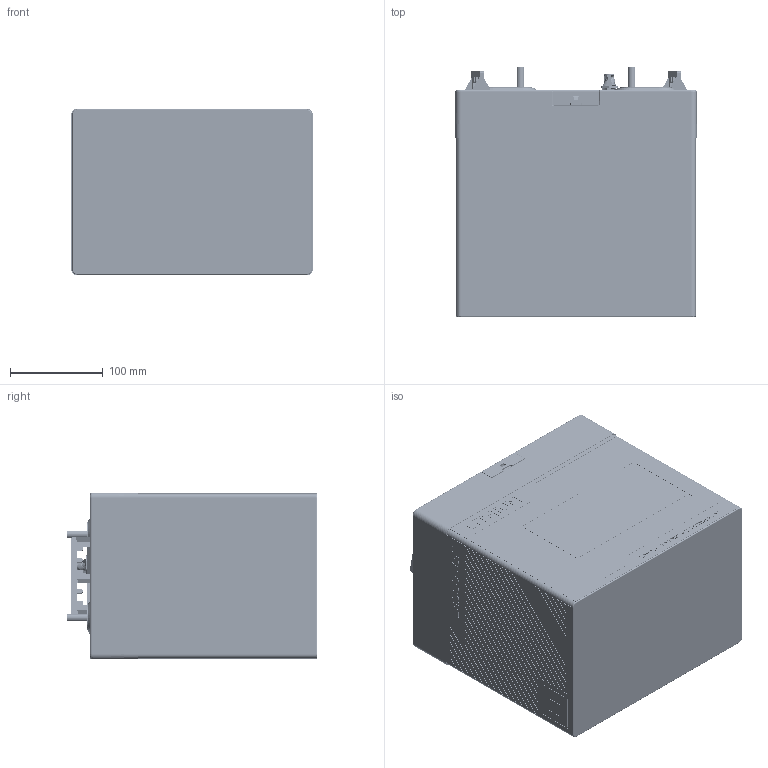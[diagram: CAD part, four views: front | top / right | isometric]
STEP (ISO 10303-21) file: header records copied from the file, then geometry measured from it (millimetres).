
FILE_DESCRIPTION (( 'STEP AP203' ), '1' );
FILE_NAME ('dlpgc_customer model_20220803.STEP', '2022-08-04T01:09:46', ( '' ), ( '' ), 'SwSTEP 2.0', 'SolidWorks 2020', '' );
FILE_SCHEMA (( 'CONFIG_CONTROL_DESIGN' ));
Products named in the file (1): dlpgc_customer model_20220803
Bounding box: 260 x 270 x 180 mm (x, y, z)
Surface area: 1267286.2 mm2 (no closed solid volume)
Topology: 0 solids, 180 shells, 12093 faces, 34400 edges, 22675 vertices
Faces by surface type: plane 7851, cylinder 3287, bspline 710, cone 238, torus 7
Entity records: 486530 total; most frequent: CARTESIAN_POINT 176740, ORIENTED_EDGE 68734, DIRECTION 59120, EDGE_CURVE 34368, LINE 25014, VECTOR 25014, VERTEX_POINT 22674, AXIS2_PLACEMENT_3D 17053
